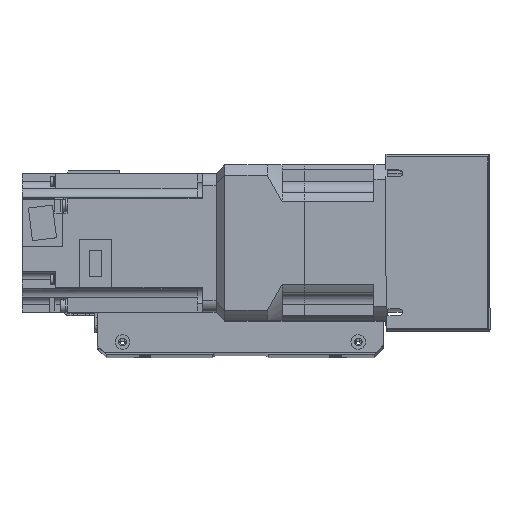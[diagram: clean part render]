
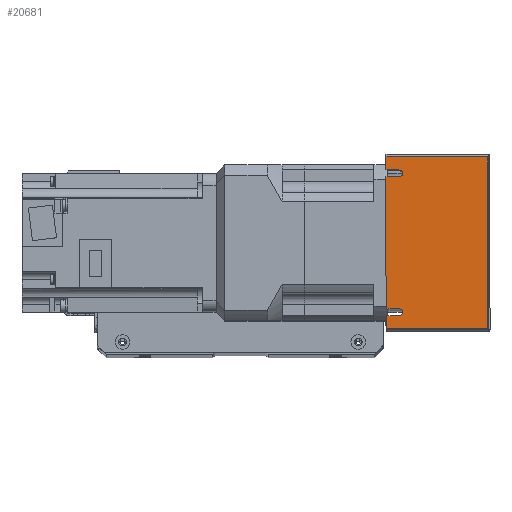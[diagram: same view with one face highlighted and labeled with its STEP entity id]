
A CAD part, top view. The second image highlights one B-rep face of the part: STEP entity #20681.
In plain terms, the highlighted planar face has unit normal (0, 0, 1) as drawn and (-1, 0, 0) by its records, which use the part's own axes.
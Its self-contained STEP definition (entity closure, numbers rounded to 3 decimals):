
#548=PLANE('',#22505);
#1636=LINE('',#32806,#3296);
#1642=LINE('',#32820,#3302);
#1654=LINE('',#32847,#3314);
#1664=LINE('',#32869,#3324);
#1672=LINE('',#32888,#3332);
#1673=LINE('',#32891,#3333);
#1674=LINE('',#32893,#3334);
#1675=LINE('',#32895,#3335);
#1676=LINE('',#32897,#3336);
#1677=LINE('',#32898,#3337);
#3296=VECTOR('',#26679,10.);
#3302=VECTOR('',#26689,10.);
#3314=VECTOR('',#26707,10.);
#3324=VECTOR('',#26721,10.);
#3332=VECTOR('',#26743,10.);
#3333=VECTOR('',#26746,10.);
#3334=VECTOR('',#26747,10.);
#3335=VECTOR('',#26748,10.);
#3336=VECTOR('',#26749,10.);
#3337=VECTOR('',#26750,10.);
#5326=FACE_OUTER_BOUND('',#6762,.T.);
#6762=EDGE_LOOP('',(#16094,#16095,#16096,#16097,#16098,#16099,#16100,#16101,
#16102,#16103,#16104,#16105));
#8192=CIRCLE('',#22501,2.);
#8195=CIRCLE('',#22506,2.);
#9621=VERTEX_POINT('',#32803);
#9622=VERTEX_POINT('',#32805);
#9627=VERTEX_POINT('',#32818);
#9628=VERTEX_POINT('',#32819);
#9639=VERTEX_POINT('',#32845);
#9640=VERTEX_POINT('',#32846);
#9649=VERTEX_POINT('',#32866);
#9650=VERTEX_POINT('',#32868);
#9655=VERTEX_POINT('',#32890);
#9656=VERTEX_POINT('',#32892);
#9657=VERTEX_POINT('',#32894);
#9658=VERTEX_POINT('',#32896);
#11965=EDGE_CURVE('',#9621,#9622,#1636,.T.);
#11971=EDGE_CURVE('',#9627,#9628,#1642,.T.);
#11983=EDGE_CURVE('',#9639,#9640,#1654,.T.);
#11993=EDGE_CURVE('',#9649,#9650,#1664,.T.);
#11996=EDGE_CURVE('',#9628,#9621,#8192,.T.);
#12005=EDGE_CURVE('',#9627,#9650,#1672,.T.);
#12006=EDGE_CURVE('',#9640,#9649,#8195,.T.);
#12007=EDGE_CURVE('',#9639,#9655,#1673,.T.);
#12008=EDGE_CURVE('',#9655,#9656,#1674,.T.);
#12009=EDGE_CURVE('',#9656,#9657,#1675,.T.);
#12010=EDGE_CURVE('',#9657,#9658,#1676,.T.);
#12011=EDGE_CURVE('',#9658,#9622,#1677,.T.);
#16094=ORIENTED_EDGE('',*,*,#11965,.F.);
#16095=ORIENTED_EDGE('',*,*,#11996,.F.);
#16096=ORIENTED_EDGE('',*,*,#11971,.F.);
#16097=ORIENTED_EDGE('',*,*,#12005,.T.);
#16098=ORIENTED_EDGE('',*,*,#11993,.F.);
#16099=ORIENTED_EDGE('',*,*,#12006,.F.);
#16100=ORIENTED_EDGE('',*,*,#11983,.F.);
#16101=ORIENTED_EDGE('',*,*,#12007,.T.);
#16102=ORIENTED_EDGE('',*,*,#12008,.T.);
#16103=ORIENTED_EDGE('',*,*,#12009,.T.);
#16104=ORIENTED_EDGE('',*,*,#12010,.T.);
#16105=ORIENTED_EDGE('',*,*,#12011,.T.);
#20681=ADVANCED_FACE('',(#5326),#548,.F.);
#22501=AXIS2_PLACEMENT_3D('',#32873,#26727,#26728);
#22505=AXIS2_PLACEMENT_3D('',#32887,#26741,#26742);
#22506=AXIS2_PLACEMENT_3D('',#32889,#26744,#26745);
#26679=DIRECTION('',(0.,0.,-1.));
#26689=DIRECTION('',(0.,0.,1.));
#26707=DIRECTION('',(0.,0.,1.));
#26721=DIRECTION('',(0.,0.,-1.));
#26727=DIRECTION('center_axis',(-1.,0.,0.));
#26728=DIRECTION('ref_axis',(0.,0.,1.));
#26741=DIRECTION('center_axis',(1.,0.,0.));
#26742=DIRECTION('ref_axis',(0.,-1.,0.));
#26743=DIRECTION('',(0.,-1.,0.));
#26744=DIRECTION('center_axis',(-1.,0.,0.));
#26745=DIRECTION('ref_axis',(0.,0.,1.));
#26746=DIRECTION('',(0.,-1.,0.));
#26747=DIRECTION('',(0.,0.,1.));
#26748=DIRECTION('',(0.,1.,0.));
#26749=DIRECTION('',(0.,0.,-1.));
#26750=DIRECTION('',(0.,-1.,0.));
#32803=CARTESIAN_POINT('',(-120.5,42.,-22.5));
#32805=CARTESIAN_POINT('',(-120.5,42.,-30.));
#32806=CARTESIAN_POINT('',(-120.5,42.,-16.304));
#32818=CARTESIAN_POINT('',(-120.5,38.,-30.));
#32819=CARTESIAN_POINT('',(-120.5,38.,-22.5));
#32820=CARTESIAN_POINT('',(-120.5,38.,-11.25));
#32845=CARTESIAN_POINT('',(-120.5,-42.,-30.));
#32846=CARTESIAN_POINT('',(-120.5,-42.,-22.5));
#32847=CARTESIAN_POINT('',(-120.5,-42.,-11.25));
#32866=CARTESIAN_POINT('',(-120.5,-38.,-22.5));
#32868=CARTESIAN_POINT('',(-120.5,-38.,-30.));
#32869=CARTESIAN_POINT('',(-120.5,-38.,-16.169));
#32873=CARTESIAN_POINT('Origin',(-120.5,40.,-22.5));
#32887=CARTESIAN_POINT('Origin',(-120.5,51.,0.));
#32888=CARTESIAN_POINT('',(-120.5,-51.,-30.));
#32889=CARTESIAN_POINT('Origin',(-120.5,-40.,-22.5));
#32890=CARTESIAN_POINT('',(-120.5,-50.,-30.));
#32891=CARTESIAN_POINT('',(-120.5,-51.,-30.));
#32892=CARTESIAN_POINT('',(-120.5,-50.,29.));
#32893=CARTESIAN_POINT('',(-120.5,-50.,0.));
#32894=CARTESIAN_POINT('',(-120.5,50.,29.));
#32895=CARTESIAN_POINT('',(-120.5,25.5,29.));
#32896=CARTESIAN_POINT('',(-120.5,50.,-30.));
#32897=CARTESIAN_POINT('',(-120.5,50.,0.));
#32898=CARTESIAN_POINT('',(-120.5,-51.,-30.));
